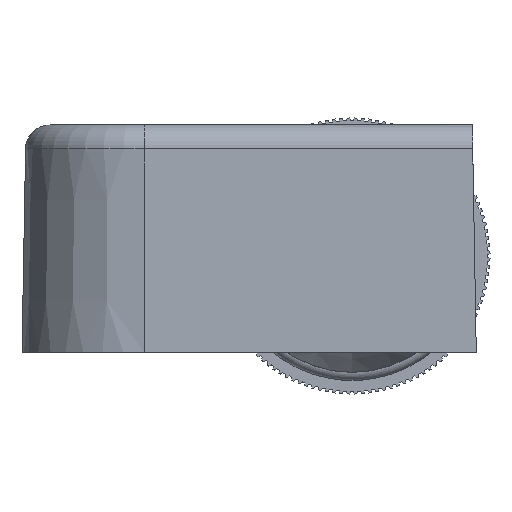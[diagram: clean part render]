
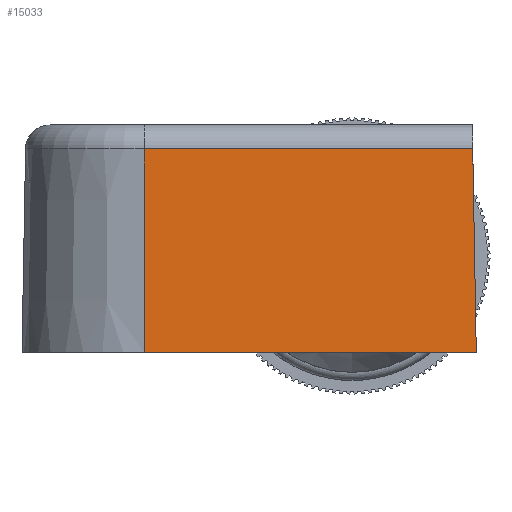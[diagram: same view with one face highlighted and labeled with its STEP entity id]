
A CAD part, left-side view. The second image highlights one B-rep face of the part: STEP entity #15033.
In plain terms, the highlighted planar face has unit normal (-1, 0, 0.018).
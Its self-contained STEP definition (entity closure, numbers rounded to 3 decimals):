
#523=PLANE('',#16537);
#1299=FACE_OUTER_BOUND('',#2116,.T.);
#2116=EDGE_LOOP('',(#13729,#13730,#13731,#13732));
#3576=LINE('',#27512,#4989);
#3596=LINE('',#27588,#5009);
#3597=LINE('',#27590,#5010);
#3598=LINE('',#27591,#5011);
#4989=VECTOR('',#20757,19.);
#5009=VECTOR('',#20845,11.628);
#5010=VECTOR('',#20846,18.797);
#5011=VECTOR('',#20847,11.626);
#7194=VERTEX_POINT('',#27509);
#7195=VERTEX_POINT('',#27511);
#7217=VERTEX_POINT('',#27587);
#7218=VERTEX_POINT('',#27589);
#9370=EDGE_CURVE('',#7194,#7195,#3576,.T.);
#9407=EDGE_CURVE('',#7194,#7217,#3596,.T.);
#9408=EDGE_CURVE('',#7218,#7217,#3597,.T.);
#9409=EDGE_CURVE('',#7195,#7218,#3598,.T.);
#13729=ORIENTED_EDGE('',*,*,#9370,.F.);
#13730=ORIENTED_EDGE('',*,*,#9407,.T.);
#13731=ORIENTED_EDGE('',*,*,#9408,.F.);
#13732=ORIENTED_EDGE('',*,*,#9409,.F.);
#15033=ADVANCED_FACE('',(#1299),#523,.T.);
#16537=AXIS2_PLACEMENT_3D('',#27586,#20843,#20844);
#20757=DIRECTION('',(0.,1.,0.));
#20843=DIRECTION('center_axis',(-1.,0.,
0.017));
#20844=DIRECTION('ref_axis',(0.,-1.,0.));
#20845=DIRECTION('',(0.017,0.017,1.));
#20846=DIRECTION('',(0.,-1.,0.));
#20847=DIRECTION('',(0.017,0.,1.));
#27509=CARTESIAN_POINT('',(-18.,0.,0.));
#27511=CARTESIAN_POINT('',(-18.,19.,0.));
#27512=CARTESIAN_POINT('',(-18.,6.446,0.));
#27586=CARTESIAN_POINT('Origin',(-18.,0.,
0.));
#27587=CARTESIAN_POINT('',(-17.797,0.203,11.624));
#27588=CARTESIAN_POINT('',(-17.995,0.005,0.314));
#27589=CARTESIAN_POINT('',(-17.797,19.,11.624));
#27590=CARTESIAN_POINT('',(-17.797,5.866,11.624));
#27591=CARTESIAN_POINT('',(-18.,19.,0.));
